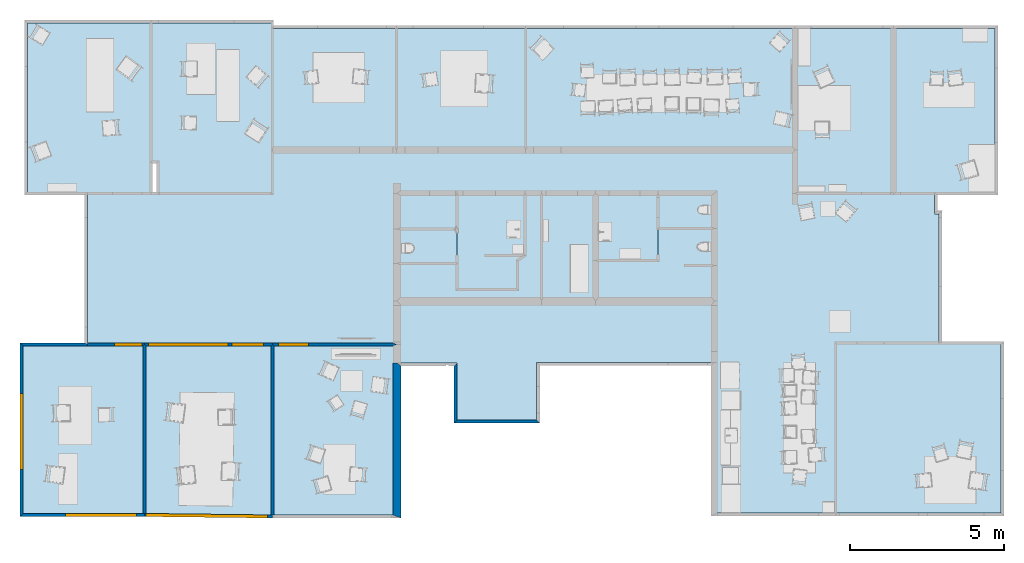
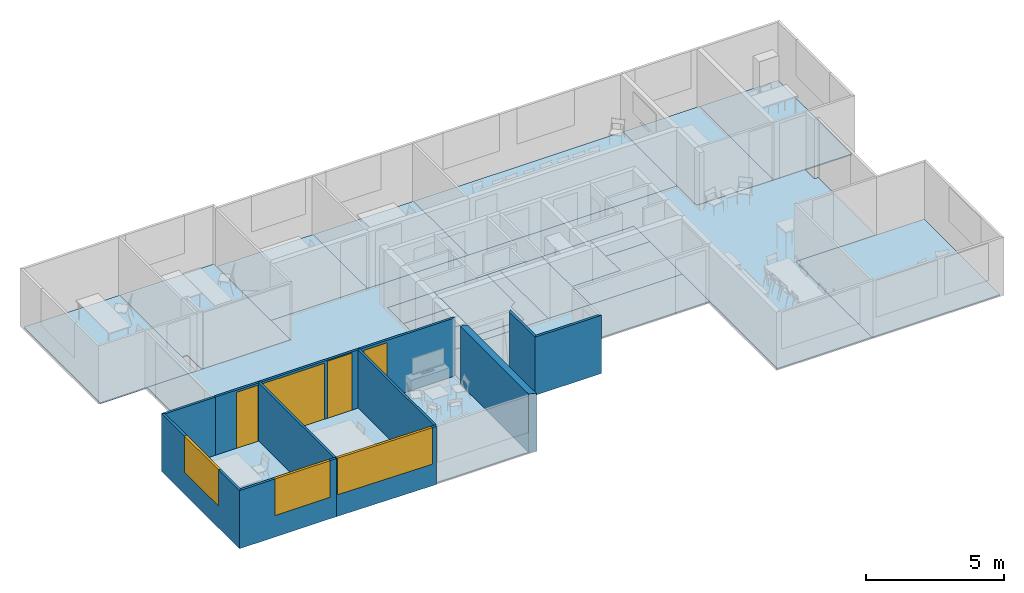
# One storey, part 1 of 25: 21 slabs, 12 walls, 4 windows, 3 doors, 7 openings.
"""IFC2X3 building model written with IfcOpenShell, lengths in metres."""

import ifcopenshell
import ifcopenshell.guid

model = None  # the IFC model being written
_history = None  # IfcOwnerHistory: only IFC2X3 demands one
_inside = {}  # id of a spatial element -> (the spatial element, [elements in it])
_under = {}  # id of a project, library or spatial element -> (it, [spatial elements below it])
_declared = {}  # id of a project -> (the project, [libraries it declares])
_typed = {}  # id of a type object -> (the type object, [elements of that type])
_made_of = {}  # id of a material, layer set ... -> (it, [elements and type objects made of it])


def new_model(schema):
    """Start an empty IFC model of exactly this schema.

    Asked for "IFC4X3", IfcOpenShell would pick the latest addendum, in which some entities
    have other attributes; the version numbers below select the first issue.
    IFC2X3 requires an IfcOwnerHistory on every rooted entity: one is made here for all.
    """
    global model, _history
    if schema == "IFC4X3":
        model = ifcopenshell.file(schema_version=(4, 3, 0, 0))
    else:
        model = ifcopenshell.file(schema=schema)
    _inside.clear()
    _under.clear()
    _declared.clear()
    _typed.clear()
    _made_of.clear()
    _history = None
    if model.schema == "IFC2X3":
        org = make("IfcOrganization", Name="unknown")
        user = make(
            "IfcPersonAndOrganization",
            ThePerson=make("IfcPerson", FamilyName="unknown"),
            TheOrganization=org,
        )
        app = make(
            "IfcApplication",
            ApplicationDeveloper=org,
            Version="unknown",
            ApplicationFullName="unknown",
            ApplicationIdentifier="unknown",
        )
        _history = make(
            "IfcOwnerHistory",
            OwningUser=user,
            OwningApplication=app,
            ChangeAction="ADDED",
            CreationDate=0,
        )
    return model


def make(cls, **values):
    """One entity of the class cls with the attributes given. An attribute that is None is left unset."""
    return model.create_entity(
        cls, **{name: value for name, value in values.items() if value is not None}
    )


def rooted(cls, **values):
    """An entity with a GlobalId (a new one), such as an element, a storey or a relation."""
    return make(cls, GlobalId=ifcopenshell.guid.new(), OwnerHistory=_history, **values)


def si_unit(unit_type, name, prefix=None):
    """IfcSIUnit, for example si_unit("LENGTHUNIT", "METRE", prefix="MILLI")."""
    return make("IfcSIUnit", UnitType=unit_type, Prefix=prefix, Name=name)


def assignment(units):
    """IfcUnitAssignment: the units of a project."""
    return None if units is None else make("IfcUnitAssignment", Units=units)


def point(xyz):
    """IfcCartesianPoint."""
    return None if xyz is None else make("IfcCartesianPoint", Coordinates=xyz)


def direction(xyz):
    """IfcDirection."""
    return None if xyz is None else make("IfcDirection", DirectionRatios=xyz)


def frame(location, z_axis=None, x_axis=None):
    """IfcAxis2Placement3D, a coordinate frame: its origin and axes. An axis left out is left unset."""
    return make(
        "IfcAxis2Placement3D",
        Location=point(location),
        Axis=direction(z_axis),
        RefDirection=direction(x_axis),
    )


def origin_with_axes():
    """The frame at (0, 0, 0) with the z axis (0, 0, 1) and the x axis (1, 0, 0) written out."""
    return frame((0.0, 0.0, 0.0), z_axis=(0.0, 0.0, 1.0), x_axis=(1.0, 0.0, 0.0))


def place(relative_to, where):
    """IfcLocalPlacement: puts the frame where relative to a parent placement (None: the world)."""
    return make(
        "IfcLocalPlacement", PlacementRelTo=relative_to, RelativePlacement=where
    )


def context(
    kind, dimensions, precision=None, world=None, true_north=None, identifier=None
):
    """IfcGeometricRepresentationContext, for example the 3D "Model" context."""
    return make(
        "IfcGeometricRepresentationContext",
        ContextIdentifier=identifier,
        ContextType=kind,
        CoordinateSpaceDimension=dimensions,
        Precision=precision,
        WorldCoordinateSystem=world,
        TrueNorth=true_north,
    )


def subcontext(parent, identifier, kind, view, scale=None):
    """IfcGeometricRepresentationSubContext, for example "Body" below "Model"."""
    return make(
        "IfcGeometricRepresentationSubContext",
        ContextIdentifier=identifier,
        ContextType=kind,
        ParentContext=parent,
        TargetScale=scale,
        TargetView=view,
    )


def project(units=None, contexts=None):
    """IfcProject with its units and contexts."""
    return rooted(
        "IfcProject",
        Name="project",
        RepresentationContexts=contexts,
        UnitsInContext=assignment(units),
    )


def spatial(cls, under=None, at=None, **own):
    """A site, building, storey or space (cls), placed at a placement, below another one or the project."""
    s = rooted(cls, ObjectPlacement=at, **own)
    if under is not None:
        _under.setdefault(under.id(), (under, []))[1].append(s)
    return s


def polyline(points):
    """IfcPolyline through the points."""
    return make("IfcPolyline", Points=[point(p) for p in points])


def outline(outer, holes=None, kind="AREA"):
    """IfcArbitraryClosedProfileDef: a profile drawn as a closed curve; with holes, ...WithVoids."""
    if holes is None:
        return make("IfcArbitraryClosedProfileDef", ProfileType=kind, OuterCurve=outer)
    return make(
        "IfcArbitraryProfileDefWithVoids",
        ProfileType=kind,
        OuterCurve=outer,
        InnerCurves=holes,
    )


def extrude(swept, where, along, depth):
    """IfcExtrudedAreaSolid: the profile swept, set in the frame where, extruded along a direction by depth."""
    return make(
        "IfcExtrudedAreaSolid",
        SweptArea=swept,
        Position=where,
        ExtrudedDirection=direction(along),
        Depth=depth,
    )


def shape(context_of_items, identifier, shape_type, items):
    """IfcShapeRepresentation: the items that make up one representation, for example the "Body"."""
    return make(
        "IfcShapeRepresentation",
        ContextOfItems=context_of_items,
        RepresentationIdentifier=identifier,
        RepresentationType=shape_type,
        Items=items,
    )


def made_of(thing, what):
    """Note that an element or type object is made of a material, layer set ...; save() writes the relation."""
    if what is not None:
        _made_of.setdefault(what.id(), (what, []))[1].append(thing)
    return thing


def type_object(cls, material=None, **own):
    """A type object (cls), such as IfcWallType, which elements share."""
    return made_of(rooted(cls, **own), material)


def element(
    cls,
    number,
    at=None,
    inside=None,
    cuts=None,
    type_object=None,
    material=None,
    context=None,
    identifier="Body",
    shape_type=None,
    held_by="IfcProductDefinitionShape",
    body=None,
    shapes=None,
    **own,
):
    """One element of the class cls, such as IfcWall. Its Tag is "e" and its number.

    at: its placement. inside: the storey or other place that contains it. cuts: it is an
    opening in that element (IfcRelVoidsElement). A single representation is given by context,
    identifier, shape_type and body (its items); several are given by shapes. held_by: the class
    of the entity that holds the representations. save() writes the other relations.
    """
    e = rooted(cls, Tag="e%d" % number, ObjectPlacement=at, **own)
    if body is not None:
        shapes = [shape(context, identifier, shape_type, body)]
    if shapes is not None:
        e.Representation = make(held_by, Representations=shapes)
    if inside is not None:
        _inside.setdefault(inside.id(), (inside, []))[1].append(e)
    if cuts is not None:
        rooted(
            "IfcRelVoidsElement", RelatingBuildingElement=cuts, RelatedOpeningElement=e
        )
    if type_object is not None:
        _typed.setdefault(type_object.id(), (type_object, []))[1].append(e)
    return made_of(e, material)


def fill(opening, filler):
    """IfcRelFillsElement: the door or window that sits in an opening."""
    return rooted(
        "IfcRelFillsElement",
        RelatingOpeningElement=opening,
        RelatedBuildingElement=filler,
    )


def aggregate(whole, parts):
    """IfcRelAggregates: a whole, such as a stair, and the parts it consists of."""
    return rooted("IfcRelAggregates", RelatingObject=whole, RelatedObjects=parts)


def save(model, path):
    """Write the relations noted so far, then the file.

    IfcRelAggregates (storeys below a building ...), IfcRelContainedInSpatialStructure (elements
    in a storey), IfcRelDefinesByType, IfcRelAssociatesMaterial and IfcRelDeclares: one each for
    every whole, place, type object, material and project.
    """
    for whole, parts in _under.values():
        aggregate(whole, parts)
    for where, things in _inside.values():
        rooted(
            "IfcRelContainedInSpatialStructure",
            RelatedElements=things,
            RelatingStructure=where,
        )
    for kind, things in _typed.values():
        rooted("IfcRelDefinesByType", RelatedObjects=things, RelatingType=kind)
    for what, things in _made_of.values():
        rooted("IfcRelAssociatesMaterial", RelatedObjects=things, RelatingMaterial=what)
    for by, libraries in _declared.values():
        rooted("IfcRelDeclares", RelatingContext=by, RelatedDefinitions=libraries)
    model.write(path)


model = new_model("IFC2X3")

# Units and contexts
model_context = context("Model", 3, precision=1e-05, world=origin_with_axes(), true_north=direction((0.996, -0.093, 0.0)))
body_context = subcontext(model_context, "Body", "Model", "MODEL_VIEW")
ifc_project = project(units=[si_unit("LENGTHUNIT", "METRE"), si_unit("AREAUNIT", "SQUARE_METRE")], contexts=[model_context])

# Site, building, storey
site_placement = place(None, origin_with_axes())
site = spatial("IfcSite", under=ifc_project, at=site_placement, Name="Site", CompositionType="ELEMENT")
building_placement = place(site_placement, origin_with_axes())
building = spatial("IfcBuilding", under=site, at=building_placement, Name="Building", CompositionType="ELEMENT")
storey_placement = place(building_placement, frame((0.0, 0.0, 0.0500001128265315), z_axis=(0.0, 0.0, 1.0), x_axis=(1.0, 0.0, 0.0)))
storey = spatial("IfcBuildingStorey", under=building, at=storey_placement, Name="Story 0", CompositionType="ELEMENT", Elevation=0.0499999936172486)

# Slabs
slab_type_1 = type_object("IfcSlabType", PredefinedType="FLOOR")
slab_1_placement = place(storey_placement, frame((6.01094218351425, 11.0851799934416, 0.0), z_axis=(0.0, 0.0, 1.0), x_axis=(1.0, 0.0, 0.0)))
element("IfcSlab", 1, at=slab_1_placement, inside=storey, type_object=slab_type_1, Name="Floor", ObjectType="Floor:Floor-Grnd-Susp_65Scr-80Ins-100Blk-75PC", PredefinedType="FLOOR", context=body_context, shape_type="SweptSolid", body=[
    extrude(outline(polyline([(0.0, 0.0), (1.35120934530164e-06, -3.94189997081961), (4.04160132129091, -3.94189858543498), (4.04159997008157, 1.38538463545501e-06), (3.97889997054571, 1.36389225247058e-06), (0.0, 0.0)])), origin_with_axes(), (0.0, 0.0, -1.0), 0.05),
])
slab_type_2 = type_object("IfcSlabType", PredefinedType="FLOOR")
slab_2_placement = place(storey_placement, frame((16.5367737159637, 2.22077950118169, 0.0), z_axis=(0.0, 0.0, 1.0), x_axis=(1.0, 0.0, 0.0)))
element("IfcSlab", 2, at=slab_2_placement, inside=storey, type_object=slab_type_2, Name="Floor", ObjectType="Floor:Floor-Grnd-Susp_65Scr-80Ins-100Blk-75PC", PredefinedType="FLOOR", context=body_context, shape_type="SweptSolid", body=[
    extrude(outline(polyline([(0.0, 0.0), (-6.91700037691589e-07, 1.32092116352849), (2.02841165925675, 1.32092205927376), (2.02841071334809, 2.36955394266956), (3.8562978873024, 2.3695550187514), (3.85629842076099, 1.15562226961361), (3.85629870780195, 6.26529670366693e-07), (0.0, 0.0)])), origin_with_axes(), (0.0, 0.0, -1.0), 0.05),
])
slab_type_3 = type_object("IfcSlabType", PredefinedType="FLOOR")
slab_3_placement = place(storey_placement, frame((1.85908719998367, -4.68587847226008, 0.0), z_axis=(0.0, 0.0, 1.0), x_axis=(1.0, 0.0, 0.0)))
element("IfcSlab", 3, at=slab_3_placement, inside=storey, type_object=slab_type_3, Name="Floor", ObjectType="Floor:Floor-Grnd-Susp_65Scr-80Ins-100Blk-75PC", PredefinedType="FLOOR", context=body_context, shape_type="SweptSolid", body=[
    extrude(outline(polyline([(0.0, 0.0), (-5.78252630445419e-07, 5.50147174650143), (4.16546627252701, 5.5014719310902), (4.16546702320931, -0.0495669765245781), (0.0, 0.0)])), origin_with_axes(), (0.0, 0.0, -1.0), 0.05),
])
slab_type_4 = type_object("IfcSlabType", PredefinedType="FLOOR")
slab_4_placement = place(storey_placement, frame((10.0691793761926, 5.72888431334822, 0.0), z_axis=(0.0, 0.0, 1.0), x_axis=(1.0, 0.0, 0.0)))
element("IfcSlab", 4, at=slab_4_placement, inside=storey, type_object=slab_type_4, Name="Floor", ObjectType="Floor:Floor-Grnd-Susp_65Scr-80Ins-100Blk-75PC", PredefinedType="FLOOR", context=body_context, shape_type="SweptSolid", body=[
    extrude(outline(polyline([(0.0, 0.0), (1.16174970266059e-06, -1.15640352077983), (1.42666026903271e-06, -2.27992760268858), (1.7162467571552e-06, -3.50810586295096), (2.04756864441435e-06, -4.91328998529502), (-4.04462590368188, -4.91329085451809), (-8.2100927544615, -4.91329174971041), (-10.0644669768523, -4.91329214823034), (-10.0644674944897, -1.49524647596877e-06), (-8.00516032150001, -9.19671684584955e-07), (-7.77246198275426, -8.68281123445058e-07), (-4.05828463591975, -4.80188857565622e-08), (-4.05828480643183, 1.4144241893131), (-0.0166216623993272, 1.41442574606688), (4.18886750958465, 1.41442736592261), (12.9510258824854, 1.41443074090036), (12.9510268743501, 3.87127766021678e-06), (16.1598814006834, 4.32439489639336e-06), (17.4891174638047, 4.51209419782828e-06), (17.4891194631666, -0.668520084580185), (17.6346837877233, -0.668521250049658), (17.6346847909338, -4.87122265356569), (14.2777426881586, -4.87122354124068), (14.2777442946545, -10.3953970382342), (10.3238941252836, -10.3953982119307), (10.3238935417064, -5.49747577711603), (10.3238930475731, -3.50810418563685), (10.3238927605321, -2.35248254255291), (10.3238924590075, -1.13854979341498), (10.3238921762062, 2.88185688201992e-06), (8.49600574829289, 2.33355119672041e-06), (6.46759250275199, 1.77641808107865e-06), (4.70630800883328, 1.29265575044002e-06), (4.16981985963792, 1.14530149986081e-06), (1.95834369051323, 5.3788749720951e-07), (0.0, 0.0)])), origin_with_axes(), (0.0, 0.0, -1.0), 0.05),
])
slab_type_5 = type_object("IfcSlabType", PredefinedType="FLOOR")
slab_5_placement = place(storey_placement, frame((14.7754880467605, 2.22077921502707, 0.0), z_axis=(0.0, 0.0, 1.0), x_axis=(1.0, 0.0, 0.0)))
element("IfcSlab", 5, at=slab_5_placement, inside=storey, type_object=slab_type_5, Name="Floor", ObjectType="Floor:Floor-Grnd-Susp_65Scr-80Ins-100Blk-75PC", PredefinedType="FLOOR", context=body_context, shape_type="SweptSolid", body=[
    extrude(outline(polyline([(0.0, 0.0), (-6.61734810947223e-07, 3.50810715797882), (1.76128383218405, 3.50810687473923), (1.76128497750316, 1.32092144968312), (1.76128566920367, -5.95129599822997e-07), (0.0, 0.0)])), origin_with_axes(), (0.0, 0.0, -1.0), 0.05),
])
slab_type_6 = type_object("IfcSlabType", PredefinedType="FLOOR")
slab_6_placement = place(storey_placement, frame((10.0691808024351, 3.44895671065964, 0.0), z_axis=(0.0, 0.0, 1.0), x_axis=(1.0, 0.0, 0.0)))
element("IfcSlab", 6, at=slab_6_placement, inside=storey, type_object=slab_type_6, Name="Floor", ObjectType="Floor:Floor-Grnd-Susp_65Scr-80Ins-100Blk-75PC", PredefinedType="FLOOR", context=body_context, shape_type="SweptSolid", body=[
    extrude(outline(polyline([(0.0, 0.0), (-2.64492820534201e-07, 1.12352408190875), (1.95834300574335, 1.12352298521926), (1.95834218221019, 0.996839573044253), (1.9583421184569, 5.66208797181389e-07), (0.0, 0.0)])), origin_with_axes(), (0.0, 0.0, -1.0), 0.05),
])
slab_type_7 = type_object("IfcSlabType", PredefinedType="FLOOR")
slab_7_placement = place(storey_placement, frame((18.5651854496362, 4.59033346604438, 0.0), z_axis=(0.0, 0.0, 1.0), x_axis=(1.0, 0.0, 0.0)))
element("IfcSlab", 7, at=slab_7_placement, inside=storey, type_object=slab_type_7, Name="Floor", ObjectType="Floor:Floor-Grnd-Susp_65Scr-80Ins-100Blk-75PC", PredefinedType="FLOOR", context=body_context, shape_type="SweptSolid", body=[
    extrude(outline(polyline([(0.0, 0.0), (-6.44977493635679e-07, -1.04863051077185), (-2.02841097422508, -1.04863280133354), (-2.02841357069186, 1.13855297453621), (-3.25150779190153e-07, 1.13855318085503), (0.0, 0.0)])), origin_with_axes(), (0.0, 0.0, -1.0), 0.05),
])
slab_type_8 = type_object("IfcSlabType", PredefinedType="FLOOR")
slab_8_placement = place(storey_placement, frame((24.3469220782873, -4.66651286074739, 0.0), z_axis=(0.0, 0.0, 1.0), x_axis=(1.0, 0.0, 0.0)))
element("IfcSlab", 8, at=slab_8_placement, inside=storey, type_object=slab_type_8, Name="Floor", ObjectType="Floor:Floor-Grnd-Susp_65Scr-80Ins-100Blk-75PC", PredefinedType="FLOOR", context=body_context, shape_type="SweptSolid", body=[
    extrude(outline(polyline([(0.0, 0.0), (1.32077918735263e-06, 5.52417339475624), (3.3569420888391, 5.52417447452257), (5.37412561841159, 5.52417498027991), (5.37412732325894, 1.73379316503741e-06), (0.0, 0.0)])), origin_with_axes(), (0.0, 0.0, -1.0), 0.05),
])
slab_type_9 = type_object("IfcSlabType", PredefinedType="FLOOR")
slab_9_placement = place(storey_placement, frame((12.0275230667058, 5.72888485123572, 0.0), z_axis=(0.0, 0.0, 1.0), x_axis=(1.0, 0.0, 0.0)))
element("IfcSlab", 9, at=slab_9_placement, inside=storey, type_object=slab_type_9, Name="Floor", ObjectType="Floor:Floor-Grnd-Susp_65Scr-80Ins-100Blk-75PC", PredefinedType="FLOOR", context=body_context, shape_type="SweptSolid", body=[
    extrude(outline(polyline([(0.0, 0.0), (-7.39584145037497e-08, -1.15640515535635), (-1.95834145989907, -1.15640405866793), (-1.95834280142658, -5.37887253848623e-07), (0.0, 0.0)])), origin_with_axes(), (0.0, 0.0, -1.0), 0.05),
])
slab_type_10 = type_object("IfcSlabType", PredefinedType="FLOOR")
slab_10_placement = place(storey_placement, frame((6.01089456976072, 7.14330850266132, 0.0), z_axis=(0.0, 0.0, 1.0), x_axis=(1.0, 0.0, 0.0)))
element("IfcSlab", 10, at=slab_10_placement, inside=storey, type_object=slab_type_10, Name="Floor", ObjectType="Floor:Floor-Grnd-Susp_65Scr-80Ins-100Blk-75PC", PredefinedType="FLOOR", context=body_context, shape_type="SweptSolid", body=[
    extrude(outline(polyline([(0.0, 0.0), (1.91276572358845e-07, -1.41442484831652), (-3.71417717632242, -1.41442505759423), (-3.71417728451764, -0.38746187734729), (-3.94687553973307, -0.387461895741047), (-3.94687604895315, 4.12646442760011), (-7.28675563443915e-07, 4.12646619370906), (-5.33075076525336e-07, 3.94190793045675), (0.0, 0.0)])), origin_with_axes(), (0.0, 0.0, -1.0), 0.05),
])
slab_type_11 = type_object("IfcSlabType", PredefinedType="FLOOR")
slab_11_placement = place(storey_placement, frame((12.0275230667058, 5.72888523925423, 0.0), z_axis=(0.0, 0.0, 1.0), x_axis=(1.0, 0.0, 0.0)))
element("IfcSlab", 11, at=slab_11_placement, inside=storey, type_object=slab_type_11, Name="Floor", ObjectType="Floor:Floor-Grnd-Susp_65Scr-80Ins-100Blk-75PC", PredefinedType="FLOOR", context=body_context, shape_type="SweptSolid", body=[
    extrude(outline(polyline([(0.0, 0.0), (2.21147616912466, 2.19395485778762e-07), (2.21147654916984, -2.01476334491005), (1.95910113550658, -2.18755352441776), (1.95910019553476, -3.12124838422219), (3.97650538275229e-07, -3.12124927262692), (3.39134585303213e-07, -2.27992764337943), (-8.20605414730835e-08, -1.28308895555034), (-7.39584429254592e-08, -1.15640554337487), (0.0, 0.0)])), origin_with_axes(), (0.0, 0.0, -1.0), 0.05),
])
slab_type_12 = type_object("IfcSlabType", PredefinedType="FLOOR")
slab_12_placement = place(storey_placement, frame((29.5232931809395, 11.0953677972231, 0.0), z_axis=(0.0, 0.0, 1.0), x_axis=(1.0, 0.0, 0.0)))
element("IfcSlab", 12, at=slab_12_placement, inside=storey, type_object=slab_type_12, Name="Floor", ObjectType="Floor:Floor-Grnd-Susp_65Scr-80Ins-100Blk-75PC", PredefinedType="FLOOR", context=body_context, shape_type="SweptSolid", body=[
    extrude(outline(polyline([(0.0, 0.0), (2.82823489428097e-06, -5.36647890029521), (-1.96499634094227, -5.36647897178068), (-3.29423240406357, -5.36647915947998), (-3.2942329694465, 2.0218647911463e-07), (0.0, 0.0)])), origin_with_axes(), (0.0, 0.0, -1.0), 0.05),
])
slab_type_13 = type_object("IfcSlabType", PredefinedType="FLOOR")
slab_13_placement = place(storey_placement, frame((-2.09511550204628, 0.815591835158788, 0.0), z_axis=(0.0, 0.0, 1.0), x_axis=(1.0, 0.0, 0.0)))
element("IfcSlab", 13, at=slab_13_placement, inside=storey, type_object=slab_type_13, Name="Floor", ObjectType="Floor:Floor-Grnd-Susp_65Scr-80Ins-100Blk-75PC", PredefinedType="FLOOR", context=body_context, shape_type="SweptSolid", body=[
    extrude(outline(polyline([(0.0, 0.0), (2.09982790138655, 3.2995908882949e-07), (3.95420212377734, 7.28479019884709e-07), (3.95420232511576, -5.50147008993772), (1.11260533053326e-06, -5.5014707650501), (0.0, 0.0)])), origin_with_axes(), (0.0, 0.0, -1.0), 0.05),
])
slab_type_14 = type_object("IfcSlabType", PredefinedType="FLOOR")
slab_14_placement = place(storey_placement, frame((23.0202060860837, 7.14331505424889, 0.0), z_axis=(0.0, 0.0, 1.0), x_axis=(1.0, 0.0, 0.0)))
element("IfcSlab", 14, at=slab_14_placement, inside=storey, type_object=slab_type_14, Name="Floor", ObjectType="Floor:Floor-Grnd-Susp_65Scr-80Ins-100Blk-75PC", PredefinedType="FLOOR", context=body_context, shape_type="SweptSolid", body=[
    extrude(outline(polyline([(0.0, 0.0), (-4.59514758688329e-07, 3.95205102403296), (3.20885412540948, 3.95205147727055), (3.20885469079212, -1.41442597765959), (7.28245669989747e-07, -1.41442686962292), (0.0, 0.0)])), origin_with_axes(), (0.0, 0.0, -1.0), 0.05),
])
slab_type_15 = type_object("IfcSlabType", PredefinedType="FLOOR")
slab_15_placement = place(storey_placement, frame((14.7754880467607, 2.2207781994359, 0.0), z_axis=(0.0, 0.0, 1.0), x_axis=(1.0, 0.0, 0.0)))
element("IfcSlab", 15, at=slab_15_placement, inside=storey, type_object=slab_type_15, Name="Floor", ObjectType="Floor:Floor-Grnd-Susp_65Scr-80Ins-100Blk-75PC", PredefinedType="FLOOR", context=body_context, shape_type="SweptSolid", body=[
    extrude(outline(polyline([(0.0, 0.0), (-4.70630849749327, 2.50961106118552e-07), (-4.70630724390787, 1.22817851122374), (-2.74796490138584, 1.22817894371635), (-2.74796454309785, 0.386858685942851), (-0.78886479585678, 0.386858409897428), (-0.788863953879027, 1.32055354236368), (-0.536487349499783, 1.4933437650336), (-0.536488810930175, 3.50810705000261), (-6.61734858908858e-07, 3.50810740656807), (0.0, 0.0)])), origin_with_axes(), (0.0, 0.0, -1.0), 0.05),
])
slab_type_16 = type_object("IfcSlabType", PredefinedType="FLOOR")
slab_16_placement = place(storey_placement, frame((2.06401895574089, 6.75584660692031, 0.0), z_axis=(0.0, 0.0, 1.0), x_axis=(1.0, 0.0, 0.0)))
element("IfcSlab", 16, at=slab_16_placement, inside=storey, type_object=slab_type_16, Name="Floor", ObjectType="Floor:Floor-Grnd-Susp_65Scr-80Ins-100Blk-75PC", PredefinedType="FLOOR", context=body_context, shape_type="SweptSolid", body=[
    extrude(outline(polyline([(0.0, 0.0), (9.89518080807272e-08, -1.02696473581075), (-2.05930707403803, -1.02696366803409), (-4.0181853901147, -1.02696410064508), (-4.01818635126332, 4.51392607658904), (-6.16582976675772e-07, 4.51392713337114), (0.0, 0.0)])), origin_with_axes(), (0.0, 0.0, -1.0), 0.05),
])
slab_type_17 = type_object("IfcSlabType", PredefinedType="FLOOR")
slab_17_placement = place(storey_placement, frame((14.2580468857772, 7.14331167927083, 0.0), z_axis=(0.0, 0.0, 1.0), x_axis=(1.0, 0.0, 0.0)))
element("IfcSlab", 17, at=slab_17_placement, inside=storey, type_object=slab_type_17, Name="Floor", ObjectType="Floor:Floor-Grnd-Susp_65Scr-80Ins-100Blk-75PC", PredefinedType="FLOOR", context=body_context, shape_type="SweptSolid", body=[
    extrude(outline(polyline([(0.0, 0.0), (-8.47147497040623e-07, 3.94190691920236), (8.76215812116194, 3.95205543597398), (8.76215920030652, 3.37497806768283e-06), (0.0, 0.0)])), origin_with_axes(), (0.0, 0.0, -1.0), 0.05),
])
slab_type_18 = type_object("IfcSlabType", PredefinedType="FLOOR")
slab_18_placement = place(storey_placement, frame((18.5651851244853, 5.72888719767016, 0.0), z_axis=(0.0, 0.0, 1.0), x_axis=(1.0, 0.0, 0.0)))
element("IfcSlab", 18, at=slab_18_placement, inside=storey, type_object=slab_type_18, Name="Floor", ObjectType="Floor:Floor-Grnd-Susp_65Scr-80Ins-100Blk-75PC", PredefinedType="FLOOR", context=body_context, shape_type="SweptSolid", body=[
    extrude(outline(polyline([(0.0, 0.0), (1.82788549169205, -4.87154796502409e-08), (1.82788671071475, -1.13855267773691), (-2.73065879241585e-07, -1.13855384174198), (0.0, 0.0)])), origin_with_axes(), (0.0, 0.0, -1.0), 0.05),
])
slab_type_19 = type_object("IfcSlabType", PredefinedType="FLOOR")
slab_19_placement = place(storey_placement, frame((10.0525577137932, 7.1433100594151, 0.0), z_axis=(0.0, 0.0, 1.0), x_axis=(1.0, 0.0, 0.0)))
element("IfcSlab", 19, at=slab_19_placement, inside=storey, type_object=slab_type_19, Name="Floor", ObjectType="Floor:Floor-Grnd-Susp_65Scr-80Ins-100Blk-75PC", PredefinedType="FLOOR", context=body_context, shape_type="SweptSolid", body=[
    extrude(outline(polyline([(0.0, 0.0), (-8.47147642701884e-07, 3.94190761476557), (4.20548840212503, 3.94190913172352), (4.20548917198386, 2.15053824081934e-06), (0.0, 0.0)])), origin_with_axes(), (0.0, 0.0, -1.0), 0.05),
])
slab_type_20 = type_object("IfcSlabType", PredefinedType="FLOOR")
slab_20_placement = place(storey_placement, frame((12.0283743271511, 0.210006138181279, 0.0), z_axis=(0.0, 0.0, 1.0), x_axis=(1.0, 0.0, 0.0)))
element("IfcSlab", 20, at=slab_20_placement, inside=storey, type_object=slab_type_20, Name="Floor", ObjectType="Floor:Floor-Grnd-Susp_65Scr-80Ins-100Blk-75PC", PredefinedType="FLOOR", context=body_context, shape_type="SweptSolid", body=[
    extrude(outline(polyline([(0.0, 0.0), (-1.95919339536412, -3.10732689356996e-07), (-1.95919290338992, 0.605588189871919), (-1.95919323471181, 2.01077231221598), (2.74711371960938, 2.01077307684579), (4.50839938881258, 2.01077336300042), (8.36469680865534, 2.01077398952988), (8.36469859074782, 0.0214023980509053), (2.5897894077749, 0.0214012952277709), (2.58978940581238, -1.85760206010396), (5.34894102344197e-08, -1.85760300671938), (0.0, 0.0)])), origin_with_axes(), (0.0, 0.0, -1.0), 0.05),
])
slab_type_21 = type_object("IfcSlabType", PredefinedType="FLOOR")
slab_21_placement = place(storey_placement, frame((6.0245547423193, -4.73544571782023, 0.0), z_axis=(0.0, 0.0, 1.0), x_axis=(1.0, 0.0, 0.0)))
element("IfcSlab", 21, at=slab_21_placement, inside=storey, type_object=slab_type_21, Name="Floor", ObjectType="Floor:Floor-Grnd-Susp_65Scr-80Ins-100Blk-75PC", PredefinedType="FLOOR", context=body_context, shape_type="SweptSolid", body=[
    extrude(outline(polyline([(0.0, 0.0), (-1.26980866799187e-06, 5.55103949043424), (4.04462651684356, 5.55104004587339), (4.04462682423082, 4.94545154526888), (4.04462799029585, 8.39267172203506e-07), (0.0, 0.0)])), origin_with_axes(), (0.0, 0.0, -1.0), 0.05),
])

# Walls
wall_type_1 = type_object("IfcWallType", PredefinedType="STANDARD")
wall_1_placement = place(storey_placement, frame((5.97817115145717, 0.769211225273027, 0.0), z_axis=(0.0, 0.0, 1.0), x_axis=(1.0, 0.0, 0.0)))
element("IfcWallStandardCase", 22, at=wall_1_placement, inside=storey, type_object=wall_type_1, Name="Wall", context=body_context, shape_type="SweptSolid", body=[
    extrude(outline(polyline([(0.0, 0.0), (0.0463823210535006, 0.0463823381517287), (0.0927646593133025, 1.72635581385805e-08), (0.0927656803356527, -5.50465695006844), (0.0463833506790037, -5.50465696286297), (1.02091997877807e-06, -5.5041050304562), (0.0, 0.0)])), origin_with_axes(), (0.0, 0.0, 1.0), 2.5729394),
])
wall_type_2 = type_object("IfcWallType", PredefinedType="STANDARD")
wall_2_placement = place(storey_placement, frame((1.81270429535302, 0.76921045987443, 0.0), z_axis=(0.0, 0.0, 1.0), x_axis=(1.0, 0.0, 0.0)))
element("IfcWallStandardCase", 23, at=wall_2_placement, inside=storey, type_object=wall_type_2, Name="Wall", context=body_context, shape_type="SweptSolid", body=[
    extrude(outline(polyline([(0.0, 0.0), (0.046382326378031, 0.0463823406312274), (0.0927646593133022, 1.94696530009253e-08), (0.0927650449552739, -5.45564062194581), (0.0463827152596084, -5.4550886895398), (3.85602955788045e-07, -5.45508869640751), (0.0, 0.0)])), origin_with_axes(), (0.0, 0.0, 1.0), 2.5729394),
])

# Wall, opening, window
wall_type_3 = type_object("IfcWallType", PredefinedType="STANDARD")
wall_3_placement = place(storey_placement, frame((1.85789712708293, -4.7858711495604, 0.0), z_axis=(0.0, 0.0, 1.0), x_axis=(1.0, 0.0, 0.0)))
wall_3 = element("IfcWallStandardCase", 24, at=wall_3_placement, inside=storey, type_object=wall_type_3, Name="Wall", context=body_context, shape_type="SweptSolid", body=[
    extrude(outline(polyline([(0.0, 0.0), (0.00118988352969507, 0.0999929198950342), (0.0475722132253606, 0.0994409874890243), (4.12027504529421, 0.0509773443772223), (4.16665737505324, 0.0504254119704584), (4.16546749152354, -0.0495675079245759), (0.0, 0.0)])), origin_with_axes(), (0.0, 0.0, 1.0), 2.5729394),
])
opening_1_placement = place(wall_3_placement, frame((4.00351913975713, 0.0523666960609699, 0.95597679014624), z_axis=(0.0, 0.0, 1.0), x_axis=(-0.999929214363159, 0.0118987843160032, 0.0)))
opening_1 = element("IfcOpeningElement", 25, at=opening_1_placement, cuts=wall_3, Name="OpeningElement", ObjectType="OPENING", context=body_context, shape_type="SweptSolid", body=[
    extrude(outline(polyline([(-8.88178419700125e-16, 0.0), (3.95622619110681, 0.0), (3.95622619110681, 1.6169624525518), (-8.88178419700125e-16, 1.6169624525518), (-8.88178419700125e-16, 0.0)])), frame((0.0, 0.0, 0.0), z_axis=(0.0, -1.0, 0.0), x_axis=(1.0, 0.0, 0.0)), (0.0, 0.0, -1.0), 0.100099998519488),
])
window_style_1 = type_object("IfcWindowStyle", Name="3e6b8f31-6243-4ce0-b538-748c237d906c", ConstructionType="ALUMINIUM", OperationType="SINGLE_PANEL", ParameterTakesPrecedence=True, Sizeable=True)
window_1_placement = place(opening_1_placement, origin_with_axes())
window_1 = element("IfcWindow", 26, at=window_1_placement, inside=storey, type_object=window_style_1, Name="Window", OverallHeight=1.5, OverallWidth=0.5, context=body_context, shape_type="SweptSolid", body=[
    extrude(outline(polyline([(0.0, 0.0), (-3.95622606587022, 0.0), (-3.95622606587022, 1.61696247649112), (0.0, 1.61696247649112), (0.0, 0.0)])), frame((0.0, 0.099999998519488, 0.0), z_axis=(0.0, 1.0, 0.0), x_axis=(-1.0, 0.0, 0.0)), (0.0, 0.0, -1.0), 0.099999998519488),
])
fill(opening_1, window_1)

# Wall, openings, door, window
wall_type_4 = type_object("IfcWallType", PredefinedType="STANDARD")
wall_4_placement = place(storey_placement, frame((1.90546895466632, 0.769210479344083, 0.0), z_axis=(0.0, 0.0, 1.0), x_axis=(1.0, 0.0, 0.0)))
wall_4 = element("IfcWallStandardCase", 27, at=wall_4_placement, inside=storey, type_object=wall_type_4, Name="Wall", context=body_context, shape_type="SweptSolid", body=[
    extrude(outline(polyline([(0.0, 0.0), (-0.0463823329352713, 0.0463823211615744), (-0.0463823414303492, 0.0927646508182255), (4.11908450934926, 0.0927654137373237), (4.11908451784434, 0.0463830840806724), (4.07270219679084, 7.45928943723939e-07), (0.0, 0.0)])), origin_with_axes(), (0.0, 0.0, 1.0), 2.5729394),
])
opening_2_placement = place(wall_4_placement, frame((3.827372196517, 0.092765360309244, 0.0), z_axis=(0.0, 0.0, 1.0), x_axis=(-1.00000000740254, 0.0, 0.0)))
opening_2 = element("IfcOpeningElement", 28, at=opening_2_placement, cuts=wall_4, Name="OpeningElement", ObjectType="OPENING", context=body_context, shape_type="SweptSolid", body=[
    extrude(outline(polyline([(8.88178419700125e-16, 0.0), (1.03013872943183, 0.0), (1.03013872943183, 2.51796546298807), (8.88178419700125e-16, 2.51796546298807), (8.88178419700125e-16, 0.0)])), frame((0.0, 0.0, 0.0), z_axis=(0.0, -1.0, 0.0), x_axis=(1.0, 0.0, 0.0)), (0.0, 0.0, -1.0), 0.0928646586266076),
])
opening_3_placement = place(wall_4_placement, frame((2.66170919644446, 0.0927651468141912, 0.0), z_axis=(0.0, 0.0, 1.0), x_axis=(-1.00000000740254, 0.0, 0.0)))
opening_3 = element("IfcOpeningElement", 29, at=opening_3_placement, cuts=wall_4, Name="OpeningElement", ObjectType="OPENING", context=body_context, shape_type="SweptSolid", body=[
    extrude(outline(polyline([(0.0, 0.0), (2.58160064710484, 0.0), (2.58160064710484, 2.47384628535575), (0.0, 2.47384628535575), (0.0, 0.0)])), frame((0.0, 0.0, 0.0), z_axis=(0.0, -1.0, 0.0), x_axis=(1.0, 0.0, 0.0)), (0.0, 0.0, -1.0), 0.0928646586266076),
])
door_style_1 = type_object("IfcDoorStyle", Name="d3533958-a20d-405f-b721-d72a361d80a8", ConstructionType="NOTDEFINED", OperationType="NOTDEFINED", ParameterTakesPrecedence=False, Sizeable=False)
door_1_placement = place(opening_2_placement, origin_with_axes())
door_1 = element("IfcDoor", 30, at=door_1_placement, inside=storey, type_object=door_style_1, Name="Door", OverallHeight=2.51796607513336, OverallWidth=1.03013890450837, context=body_context, shape_type="SweptSolid", body=[
    extrude(outline(polyline([(8.88178419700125e-16, 0.0), (-1.03013861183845, 0.0), (-1.03013861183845, 2.51796550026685), (8.88178419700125e-16, 2.51796550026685), (8.88178419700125e-16, 0.0)])), frame((0.0, 0.0927646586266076, 0.0), z_axis=(0.0, 1.0, 0.0), x_axis=(-1.0, 0.0, 0.0)), (0.0, 0.0, -1.0), 0.0927646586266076),
])
fill(opening_2, door_1)
window_style_2 = type_object("IfcWindowStyle", Name="0abda7d6-62d9-436e-a23f-dc0c3db6f301", ConstructionType="ALUMINIUM", OperationType="SINGLE_PANEL", ParameterTakesPrecedence=True, Sizeable=True)
window_2_placement = place(opening_3_placement, origin_with_axes())
window_2 = element("IfcWindow", 31, at=window_2_placement, inside=storey, type_object=window_style_2, Name="Window", OverallHeight=1.5, OverallWidth=0.5, context=body_context, shape_type="SweptSolid", body=[
    extrude(outline(polyline([(-8.88178419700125e-16, 0.0), (-2.58160035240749, 0.0), (-2.58160035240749, 2.47384632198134), (-8.88178419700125e-16, 2.47384632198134), (-8.88178419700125e-16, 0.0)])), frame((0.0, 0.0927646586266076, 0.0), z_axis=(0.0, 1.0, 0.0), x_axis=(-1.0, 0.0, 0.0)), (0.0, 0.0, -1.0), 0.0927646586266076),
])
fill(opening_3, window_2)

# Wall, opening, door
wall_type_5 = type_object("IfcWallType", PredefinedType="STANDARD")
wall_5_placement = place(storey_placement, frame((6.07093581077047, 0.769211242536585, 0.0), z_axis=(0.0, 0.0, 1.0), x_axis=(1.0, 0.0, 0.0)))
wall_5 = element("IfcWallStandardCase", 32, at=wall_5_placement, inside=storey, type_object=wall_type_5, Name="Wall", context=body_context, shape_type="SweptSolid", body=[
    extrude(outline(polyline([(0.0, 0.0), (-0.0463823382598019, 0.0463823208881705), (-0.0463823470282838, 0.0927646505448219), (3.86453650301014, 0.0927653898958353), (3.99824555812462, 0.0463830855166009), (3.8645365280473, 7.30582535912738e-07), (0.0, 0.0)])), origin_with_axes(), (0.0, 0.0, 1.0), 2.5729394),
])
opening_4_placement = place(wall_5_placement, frame((1.11289631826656, 0.0927648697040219, 0.0), z_axis=(0.0, 0.0, 1.0), x_axis=(-1.00000000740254, 0.0, 0.0)))
opening_4 = element("IfcOpeningElement", 33, at=opening_4_placement, cuts=wall_5, Name="OpeningElement", ObjectType="OPENING", context=body_context, shape_type="SweptSolid", body=[
    extrude(outline(polyline([(0.0, 0.0), (0.965712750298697, 0.0), (0.965712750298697, 2.46230293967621), (0.0, 2.46230293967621), (0.0, 0.0)])), frame((0.0, 0.0, 0.0), z_axis=(0.0, -1.0, 0.0), x_axis=(1.0, 0.0, 0.0)), (0.0, 0.0, -1.0), 0.0928646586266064),
])
door_style_2 = type_object("IfcDoorStyle", Name="796f53f0-f5a5-4719-a6c9-a2ff0848b2cc", ConstructionType="NOTDEFINED", OperationType="NOTDEFINED", ParameterTakesPrecedence=False, Sizeable=False)
door_2_placement = place(opening_4_placement, origin_with_axes())
door_2 = element("IfcDoor", 34, at=door_2_placement, inside=storey, type_object=door_style_2, Name="Door", OverallHeight=2.4623029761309, OverallWidth=0.965714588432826, context=body_context, shape_type="SweptSolid", body=[
    extrude(outline(polyline([(0.0, 0.0), (-0.965712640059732, 0.0), (-0.965712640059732, 2.4623029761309), (0.0, 2.4623029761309), (0.0, 0.0)])), frame((0.0, 0.0927646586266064, 0.0), z_axis=(0.0, 1.0, 0.0), x_axis=(-1.0, 0.0, 0.0)), (0.0, 0.0, -1.0), 0.0927646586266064),
])
fill(opening_4, door_2)

wall_type_6 = type_object("IfcWallType", PredefinedType="STANDARD")
wall_6_placement = place(storey_placement, frame((0.00471241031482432, 0.769210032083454, 0.0), z_axis=(0.0, 0.0, 1.0), x_axis=(1.0, 0.0, 0.0)))
wall_6 = element("IfcWallStandardCase", 35, at=wall_6_placement, inside=storey, type_object=wall_type_6, Name="Wall", context=body_context, shape_type="SweptSolid", body=[
    extrude(outline(polyline([(0.0, 0.0), (-1.09745747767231e-08, 0.0463823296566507), (-1.58611630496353e-08, 0.0927646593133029), (1.85437420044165, 0.0927650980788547), (1.85437421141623, 0.0463827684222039), (1.8079918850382, 4.27790976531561e-07), (0.0, 0.0)])), origin_with_axes(), (0.0, 0.0, 1.0), 2.5729394),
])
opening_5_placement = place(wall_6_placement, frame((1.77523099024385, 0.0927650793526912, 0.0), z_axis=(0.0, 0.0, 1.0), x_axis=(-1.00000000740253, 0.0, 0.0)))
opening_5 = element("IfcOpeningElement", 36, at=opening_5_placement, cuts=wall_6, Name="OpeningElement", ObjectType="OPENING", context=body_context, shape_type="SweptSolid", body=[
    extrude(outline(polyline([(0.0, 0.0), (0.897741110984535, 0.0), (0.897741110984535, 2.47437964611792), (0.0, 2.47437964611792), (0.0, 0.0)])), frame((0.0, 0.0, 0.0), z_axis=(0.0, -1.0, 0.0), x_axis=(1.0, 0.0, 0.0)), (0.0, 0.0, -1.0), 0.092864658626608),
])
door_style_3 = type_object("IfcDoorStyle", Name="8f46b6e1-8f17-41c5-a5cf-4af05d3d852d", ConstructionType="NOTDEFINED", OperationType="NOTDEFINED", ParameterTakesPrecedence=False, Sizeable=False)
door_3_placement = place(opening_5_placement, origin_with_axes())
door_3 = element("IfcDoor", 37, at=door_3_placement, inside=storey, type_object=door_style_3, Name="Door", OverallHeight=2.47438083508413, OverallWidth=0.897741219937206, context=body_context, shape_type="SweptSolid", body=[
    extrude(outline(polyline([(2.22044604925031e-16, 0.0), (-0.897741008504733, 0.0), (-0.897741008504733, 2.47437968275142), (2.22044604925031e-16, 2.47437968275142), (2.22044604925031e-16, 0.0)])), frame((0.0, 0.092764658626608, 0.0), z_axis=(0.0, 1.0, 0.0), x_axis=(-1.0, 0.0, 0.0)), (0.0, 0.0, -1.0), 0.092764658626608),
])
fill(opening_5, door_3)

# Wall, opening, window
wall_type_7 = type_object("IfcWallType", PredefinedType="STANDARD")
wall_7_placement = place(storey_placement, frame((-2.19511450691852, -4.78587882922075, 0.0), z_axis=(0.0, 0.0, 1.0), x_axis=(1.0, 0.0, 0.0)))
wall_7 = element("IfcWallStandardCase", 38, at=wall_7_placement, inside=storey, type_object=wall_type_7, Name="Wall", context=body_context, shape_type="SweptSolid", body=[
    extrude(outline(polyline([(0.0, 0.0), (0.0999999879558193, 0.100000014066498), (4.00781918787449, 0.100000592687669), (4.05420151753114, 0.100000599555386), (4.05420153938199, 6.00295645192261e-07), (0.0, 0.0)])), origin_with_axes(), (0.0, 0.0, 1.0), 2.5729394),
])
opening_6_placement = place(wall_7_placement, frame((3.78676657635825, 0.100000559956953, 0.952752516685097), z_axis=(0.0, 0.0, 1.0), x_axis=(-1.00000000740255, 0.0, 0.0)))
opening_6 = element("IfcOpeningElement", 39, at=opening_6_placement, cuts=wall_7, Name="OpeningElement", ObjectType="OPENING", context=body_context, shape_type="SweptSolid", body=[
    extrude(outline(polyline([(0.0, 0.0), (2.30313256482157, 0.0), (2.30313256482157, 1.62018672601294), (0.0, 1.62018672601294), (0.0, 0.0)])), frame((0.0, 0.0, 0.0), z_axis=(0.0, -1.0, 0.0), x_axis=(1.0, 0.0, 0.0)), (0.0, 0.0, -1.0), 0.100099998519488),
])
window_style_3 = type_object("IfcWindowStyle", Name="d6720e71-3899-42bb-b0e7-ef1b1aad9c45", ConstructionType="ALUMINIUM", OperationType="SINGLE_PANEL", ParameterTakesPrecedence=True, Sizeable=True)
window_3_placement = place(opening_6_placement, origin_with_axes())
window_3 = element("IfcWindow", 40, at=window_3_placement, inside=storey, type_object=window_style_3, Name="Window", OverallHeight=1.5, OverallWidth=0.5, context=body_context, shape_type="SweptSolid", body=[
    extrude(outline(polyline([(0.0, 0.0), (-2.30313230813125, 0.0), (-2.30313230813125, 1.62018675), (0.0, 1.62018675), (0.0, 0.0)])), frame((0.0, 0.0999999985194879, 0.0), z_axis=(0.0, 1.0, 0.0), x_axis=(-1.0, 0.0, 0.0)), (0.0, 0.0, -1.0), 0.0999999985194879),
])
fill(opening_6, window_3)

wall_type_8 = type_object("IfcWallType", PredefinedType="STANDARD")
wall_8_placement = place(storey_placement, frame((-2.19511514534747, 0.861974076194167, 0.0), z_axis=(0.0, 0.0, 1.0), x_axis=(1.0, 0.0, 0.0)))
wall_8 = element("IfcWallStandardCase", 41, at=wall_8_placement, inside=storey, type_object=wall_type_8, Name="Wall", context=body_context, shape_type="SweptSolid", body=[
    extrude(outline(polyline([(0.0, 0.0), (0.100000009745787, -0.0927646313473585), (0.100000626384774, -5.54785289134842), (6.38428955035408e-07, -5.64785290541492), (0.0, 0.0)])), origin_with_axes(), (0.0, 0.0, 1.0), 2.5729394),
])
opening_7_placement = place(wall_8_placement, frame((0.100000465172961, -4.12169480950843, 0.975993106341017), z_axis=(0.0, 0.0, 1.0), x_axis=(0.0, 1.00000000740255, 0.0)))
opening_7 = element("IfcOpeningElement", 42, at=opening_7_placement, cuts=wall_8, Name="OpeningElement", ObjectType="OPENING", context=body_context, shape_type="SweptSolid", body=[
    extrude(outline(polyline([(1.84061741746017e-16, 0.0), (2.47029647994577, 0.0), (2.47029647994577, 1.59694613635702), (1.84061741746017e-16, 1.59694613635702), (1.84061741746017e-16, 0.0)])), frame((0.0, 0.0, 0.0), z_axis=(0.0, -1.0, 0.0), x_axis=(1.0, 0.0, 0.0)), (0.0, 0.0, -1.0), 0.100099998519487),
])
window_style_4 = type_object("IfcWindowStyle", Name="6d901344-472b-4818-b0ac-d0ac430ac273", ConstructionType="ALUMINIUM", OperationType="SINGLE_PANEL", ParameterTakesPrecedence=True, Sizeable=True)
window_4_placement = place(opening_7_placement, origin_with_axes())
window_4 = element("IfcWindow", 43, at=window_4_placement, inside=storey, type_object=window_style_4, Name="Window", OverallHeight=1.5, OverallWidth=0.5, context=body_context, shape_type="SweptSolid", body=[
    extrude(outline(polyline([(4.6201729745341e-17, 0.0), (-2.47029654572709, 0.0), (-2.47029654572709, 1.59694616), (4.6201729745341e-17, 1.59694616), (4.6201729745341e-17, 0.0)])), frame((0.0, 0.0999999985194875, 0.0), z_axis=(0.0, 1.0, 0.0), x_axis=(-1.0, 0.0, 0.0)), (0.0, 0.0, -1.0), 0.0999999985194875),
])
fill(opening_7, window_4)

# Walls
wall_type_9 = type_object("IfcWallType", PredefinedType="STANDARD")
wall_9_placement = place(storey_placement, frame((-2.09511513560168, 0.769209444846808, 0.0), z_axis=(0.0, 0.0, 1.0), x_axis=(1.0, 0.0, 0.0)))
element("IfcWallStandardCase", 44, at=wall_9_placement, inside=storey, type_object=wall_type_9, Name="Wall", context=body_context, shape_type="SweptSolid", body=[
    extrude(outline(polyline([(0.0, 0.0), (-0.100000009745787, 0.0927646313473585), (1.9998275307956, 0.0927652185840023), (2.09982753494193, 0.0463829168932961), (2.09982754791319, 5.87236645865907e-07), (0.0, 0.0)])), origin_with_axes(), (0.0, 0.0, 1.0), 2.5729394),
])
wall_type_10 = type_object("IfcWallType", PredefinedType="STANDARD")
wall_10_placement = place(storey_placement, frame((11.9283740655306, 0.110006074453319, 0.0), z_axis=(0.0, 0.0, 1.0), x_axis=(1.0, 0.0, 0.0)))
element("IfcWallStandardCase", 45, at=wall_10_placement, inside=storey, type_object=wall_type_10, Name="Wall", context=body_context, shape_type="SweptSolid", body=[
    extrude(outline(polyline([(0.0, 0.0), (0.09999997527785, 0.100000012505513), (0.100000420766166, -1.75760284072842), (4.45488314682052e-07, -1.85760285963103), (0.0, 0.0)])), origin_with_axes(), (0.0, 0.0, 1.0), 2.5729394),
])
wall_type_11 = type_object("IfcWallType", PredefinedType="STANDARD")
wall_11_placement = place(storey_placement, frame((11.9283745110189, -1.74759678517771, 0.0), z_axis=(0.0, 0.0, 1.0), x_axis=(1.0, 0.0, 0.0)))
element("IfcWallStandardCase", 46, at=wall_11_placement, inside=storey, type_object=wall_type_11, Name="Wall", context=body_context, shape_type="SweptSolid", body=[
    extrude(outline(polyline([(0.0, 0.0), (0.0999999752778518, 0.10000001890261), (2.68978951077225, 0.100000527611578), (2.78978953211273, 5.47994706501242e-07), (0.0, 0.0)])), origin_with_axes(), (0.0, 0.0, 1.0), 2.5729394),
])
wall_type_12 = type_object("IfcWallType", PredefinedType="STANDARD")
wall_12_placement = place(storey_placement, frame((9.93547232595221, 0.210005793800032, 0.0), z_axis=(0.0, 0.0, 1.0), x_axis=(1.0, 0.0, 0.0)))
element("IfcWallStandardCase", 47, at=wall_12_placement, inside=storey, type_object=wall_type_12, Name="Wall", context=body_context, shape_type="SweptSolid", body=[
    extrude(outline(polyline([(0.0, 0.0), (0.133709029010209, 3.3648601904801e-08), (0.26741808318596, -0.0999999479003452), (0.267419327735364, -5.04545037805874), (1.24454941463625e-06, -4.94545045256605), (0.0, 0.0)])), origin_with_axes(), (0.0, 0.0, 1.0), 2.5729394),
])

save(model, "model.ifc")
